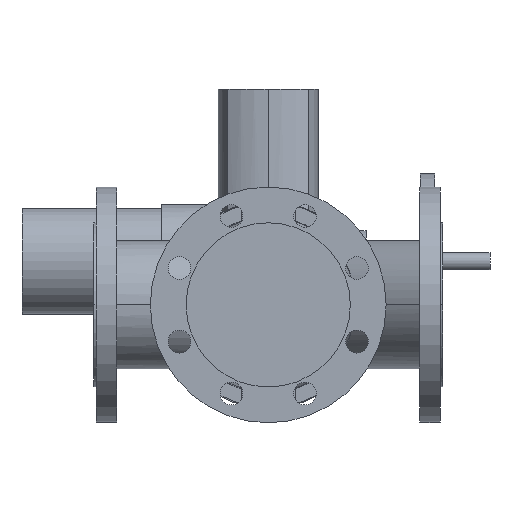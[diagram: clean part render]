
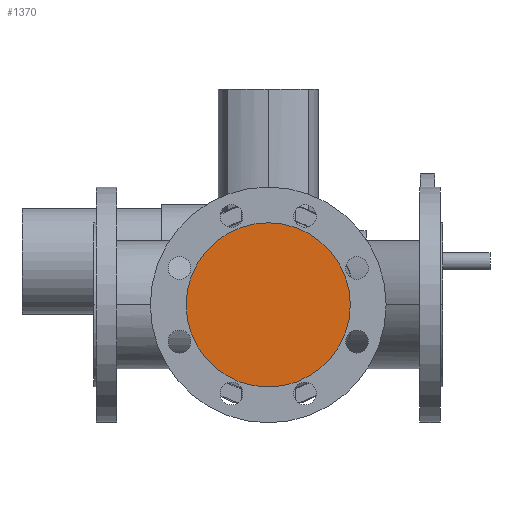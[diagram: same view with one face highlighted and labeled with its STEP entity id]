
A CAD part, front view. The second image highlights one B-rep face of the part: STEP entity #1370.
In plain terms, the highlighted planar face has unit normal (0, -1, 0).
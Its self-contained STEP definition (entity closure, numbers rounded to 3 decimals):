
#1170=CARTESIAN_POINT('',(247.,-200.,0.));
#1180=DIRECTION('',(0.,-1.,0.));
#1190=DIRECTION('',(-1.,0.,0.));
#1200=AXIS2_PLACEMENT_3D('',#1170,#1180,#1190);
#1210=PLANE('',#1200);
#1220=CARTESIAN_POINT('',(200.,-200.,0.));
#1230=DIRECTION('',(0.,1.,0.));
#1240=DIRECTION('',(1.,0.,0.));
#1250=AXIS2_PLACEMENT_3D('',#1220,#1230,#1240);
#1260=CIRCLE('',#1250,94.);
#1270=CARTESIAN_POINT('',(106.,-200.,0.));
#1280=VERTEX_POINT('',#1270);
#1290=CARTESIAN_POINT('',(294.,-200.,0.));
#1300=VERTEX_POINT('',#1290);
#1310=EDGE_CURVE('',#1280,#1300,#1260,.T.);
#1320=ORIENTED_EDGE('',*,*,#1310,.F.);
#1330=EDGE_CURVE('',#1300,#1280,#1260,.T.);
#1340=ORIENTED_EDGE('',*,*,#1330,.F.);
#1350=EDGE_LOOP('',(#1340,#1320));
#1360=FACE_OUTER_BOUND('',#1350,.T.);
#1370=ADVANCED_FACE('',(#1360),#1210,.T.);
